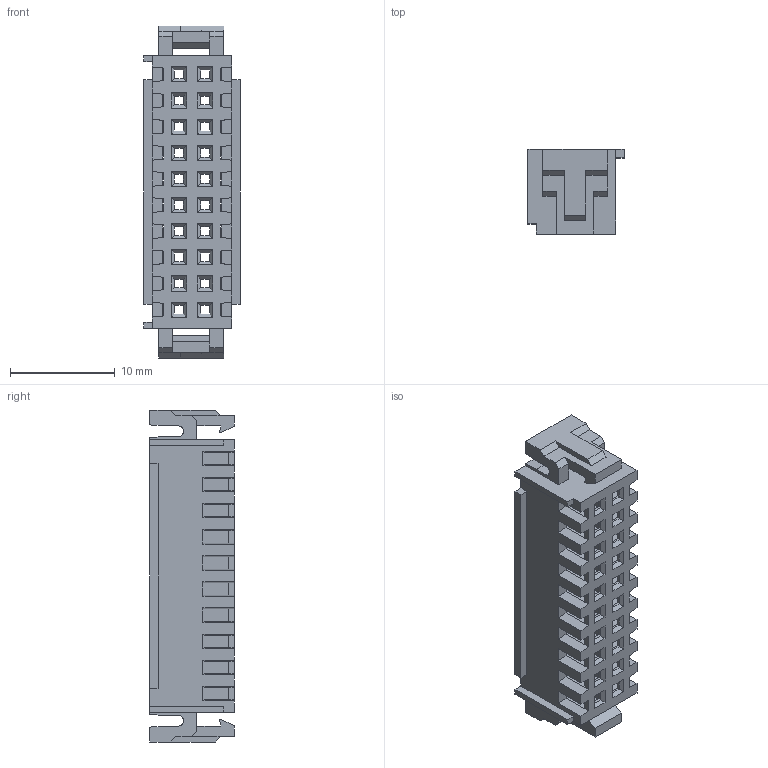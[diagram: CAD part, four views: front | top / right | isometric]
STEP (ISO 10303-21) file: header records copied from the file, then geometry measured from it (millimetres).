
FILE_DESCRIPTION (( 'STEP AP203' ), '1' );
FILE_NAME ('HC-XHZ-2x10Y-X-05（2.50 双排 孔座-HCTL）.STEP', '2024-09-05T05:45:23', ( '' ), ( '' ), 'SwSTEP 2.0', 'SolidWorks 2022', '' );
FILE_SCHEMA (( 'CONFIG_CONTROL_DESIGN' ));
Length unit declared in the file: millimetre
Products named in the file (1): HC-XHZ-2x10Y-X-05（2.50 双排 孔座-HCTL）
Bounding box: 9.2 x 8.1 x 31.75 mm (x, y, z)
Volume: 843.6 mm3; surface area: 2712.3 mm2
Topology: 1 solids, 1 shells, 420 faces, 1242 edges, 800 vertices
Faces by surface type: plane 416, cylinder 4
Entity records: 13867 total; most frequent: ORIENTED_EDGE 2484, CARTESIAN_POINT 2463, DIRECTION 2092, EDGE_CURVE 1242, LINE 1234, VECTOR 1234, VERTEX_POINT 800, EDGE_LOOP 480
